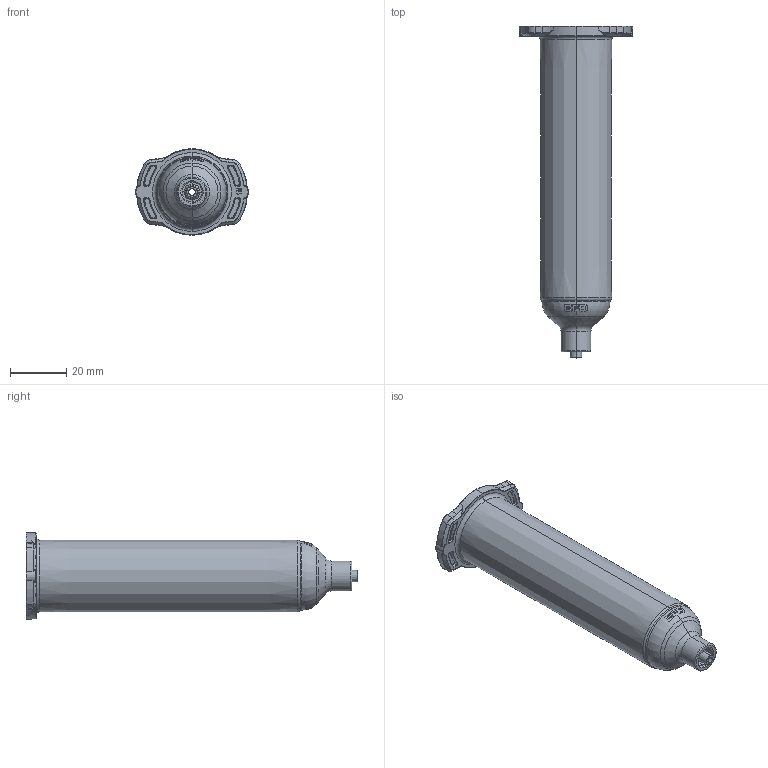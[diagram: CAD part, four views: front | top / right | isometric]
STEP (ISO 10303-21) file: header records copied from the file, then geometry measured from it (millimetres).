
FILE_DESCRIPTION (( 'STEP AP214' ), '1' );
FILE_NAME ('NORDSONEFD-7012005 BARREL O 30CC AM.STEP', '2019-01-07T17:02:57', ( '' ), ( '' ), 'SwSTEP 2.0', 'SolidWorks 2018', '' );
FILE_SCHEMA (( 'AUTOMOTIVE_DESIGN' ));
Length unit declared in the file: inch
Products named in the file (1): NORDSONEFD-7012005 BARREL O 30CC AM
Bounding box: 40.18 x 117.75 x 30.65 mm (x, y, z)
Volume: 13028.7 mm3; surface area: 17874.5 mm2
Topology: 1 solids, 1 shells, 543 faces, 1367 edges, 839 vertices
Faces by surface type: bspline 251, plane 121, torus 82, cylinder 54, cone 35
Entity records: 23299 total; most frequent: CARTESIAN_POINT 12370, ORIENTED_EDGE 2726, DIRECTION 1562, EDGE_CURVE 1363, VERTEX_POINT 839, B_SPLINE_CURVE_WITH_KNOTS 670, AXIS2_PLACEMENT_3D 602, EDGE_LOOP 562
